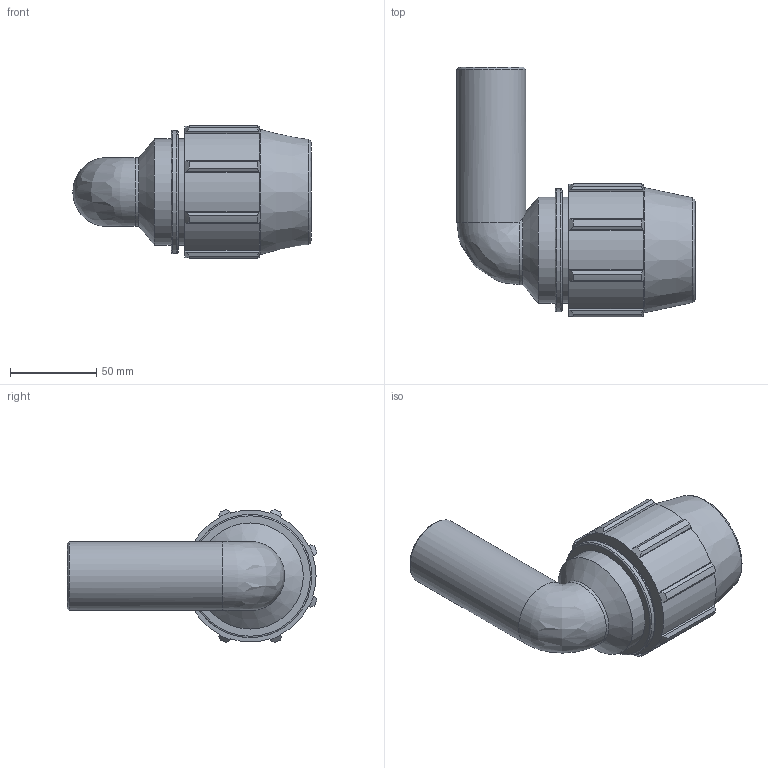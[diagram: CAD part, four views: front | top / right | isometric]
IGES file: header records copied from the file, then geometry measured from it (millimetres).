
Global section: file name: 073500040040_183500040040_0735060400400A.ipt; native system: Autodesk Inventor 2015; preprocessor: unknown; author: KIM; date: 20170608.042224; units: millimetre
Bounding box: 138 x 144.58 x 77.16 mm (x, y, z)
Volume: 340866.5 mm3; surface area: 67812.7 mm2
Topology: 1 solids, 1 shells, 82 faces, 231 edges, 154 vertices
Faces by surface type: plane 39, cylinder 21, cone 12, revolution 9, bspline 1
Full cylindrical faces by diameter (mm): 40 x1, 61.5 x2, 71.34 x1
